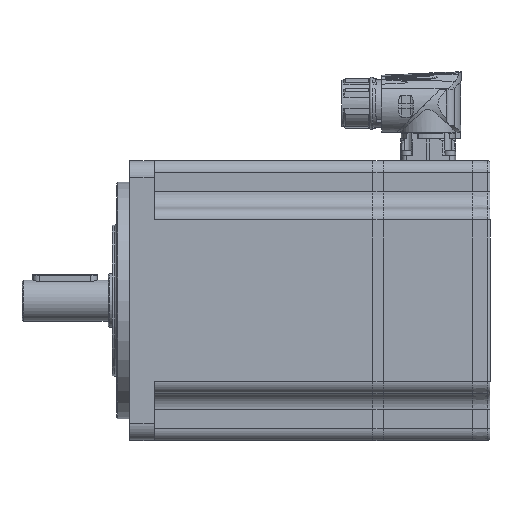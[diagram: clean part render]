
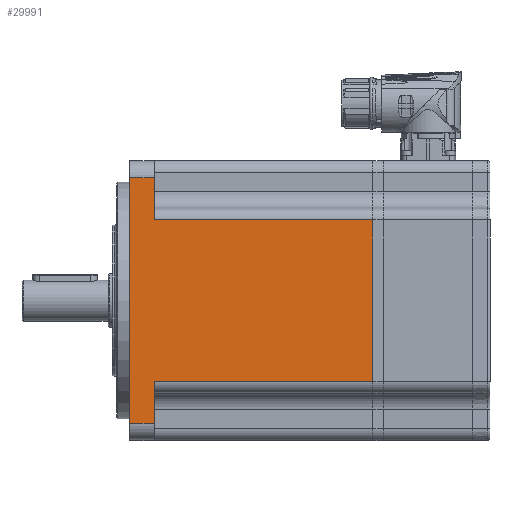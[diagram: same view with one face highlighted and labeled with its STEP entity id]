
A CAD part, left-side view. The second image highlights one B-rep face of the part: STEP entity #29991.
In plain terms, the highlighted planar face has unit normal (-1, 0, 0) as drawn and (1, 0, 0) by its records, which use the part's own axes.
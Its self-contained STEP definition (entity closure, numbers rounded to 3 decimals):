
#1752=LINE('',#61399,#3681);
#1800=LINE('',#62373,#3729);
#1811=LINE('',#62440,#3740);
#1838=LINE('',#62501,#3767);
#1839=LINE('',#62502,#3768);
#1840=LINE('',#62504,#3769);
#1841=LINE('',#62506,#3770);
#1842=LINE('',#62507,#3771);
#3681=VECTOR('',#49269,1000.);
#3729=VECTOR('',#49737,1000.);
#3740=VECTOR('',#49802,1000.);
#3767=VECTOR('',#49869,1000.);
#3768=VECTOR('',#49870,1000.);
#3769=VECTOR('',#49871,1000.);
#3770=VECTOR('',#49872,1000.);
#3771=VECTOR('',#49873,1000.);
#5805=PLANE('',#44953);
#9831=ORIENTED_EDGE('',*,*,#16724,.F.);
#9832=ORIENTED_EDGE('',*,*,#17037,.T.);
#9833=ORIENTED_EDGE('',*,*,#16972,.F.);
#9834=ORIENTED_EDGE('',*,*,#17038,.T.);
#9835=ORIENTED_EDGE('',*,*,#17039,.F.);
#9836=ORIENTED_EDGE('',*,*,#17040,.T.);
#9837=ORIENTED_EDGE('',*,*,#17002,.F.);
#9838=ORIENTED_EDGE('',*,*,#17041,.T.);
#16724=EDGE_CURVE('',#20716,#20717,#1752,.T.);
#16972=EDGE_CURVE('',#20874,#20875,#1800,.T.);
#17002=EDGE_CURVE('',#20904,#20905,#1811,.T.);
#17037=EDGE_CURVE('',#20716,#20875,#1838,.T.);
#17038=EDGE_CURVE('',#20874,#20918,#1839,.T.);
#17039=EDGE_CURVE('',#20919,#20918,#1840,.T.);
#17040=EDGE_CURVE('',#20919,#20905,#1841,.F.);
#17041=EDGE_CURVE('',#20904,#20717,#1842,.T.);
#20716=VERTEX_POINT('',#61398);
#20717=VERTEX_POINT('',#61400);
#20874=VERTEX_POINT('',#62372);
#20875=VERTEX_POINT('',#62374);
#20904=VERTEX_POINT('',#62441);
#20905=VERTEX_POINT('',#62442);
#20918=VERTEX_POINT('',#62503);
#20919=VERTEX_POINT('',#62505);
#25134=EDGE_LOOP('',(#9831,#9832,#9833,#9834,#9835,#9836,#9837,#9838));
#27643=FACE_BOUND('',#25134,.T.);
#29991=ADVANCED_FACE('',(#27643),#5805,.T.);
#44953=AXIS2_PLACEMENT_3D('',#62500,#49867,#49868);
#49269=DIRECTION('',(0.,0.,-1.));
#49737=DIRECTION('',(0.,0.,-1.));
#49802=DIRECTION('',(0.,0.,-1.));
#49867=DIRECTION('',(1.,0.,0.));
#49868=DIRECTION('',(0.,1.,0.));
#49869=DIRECTION('',(0.,-1.,0.));
#49870=DIRECTION('',(0.,-1.,0.));
#49871=DIRECTION('',(0.,0.,1.));
#49872=DIRECTION('',(0.,-1.,0.));
#49873=DIRECTION('',(0.,1.,0.));
#61398=CARTESIAN_POINT('',(65.,114.2,37.5));
#61399=CARTESIAN_POINT('',(65.,114.2,-65.));
#61400=CARTESIAN_POINT('',(65.,114.2,-37.5));
#62372=CARTESIAN_POINT('',(65.,12.7,57.));
#62373=CARTESIAN_POINT('',(65.,12.7,-65.));
#62374=CARTESIAN_POINT('',(65.,12.7,37.5));
#62440=CARTESIAN_POINT('',(65.,12.7,-65.));
#62441=CARTESIAN_POINT('',(65.,12.7,-37.5));
#62442=CARTESIAN_POINT('',(65.,12.7,-57.));
#62500=CARTESIAN_POINT('',(65.,309.164,-65.));
#62501=CARTESIAN_POINT('',(65.,309.164,37.5));
#62502=CARTESIAN_POINT('',(65.,309.164,57.));
#62503=CARTESIAN_POINT('',(65.,1.2,57.));
#62504=CARTESIAN_POINT('',(65.,1.2,-65.));
#62505=CARTESIAN_POINT('',(65.,1.2,-57.));
#62506=CARTESIAN_POINT('',(65.,309.164,-57.));
#62507=CARTESIAN_POINT('',(65.,309.164,-37.5));
